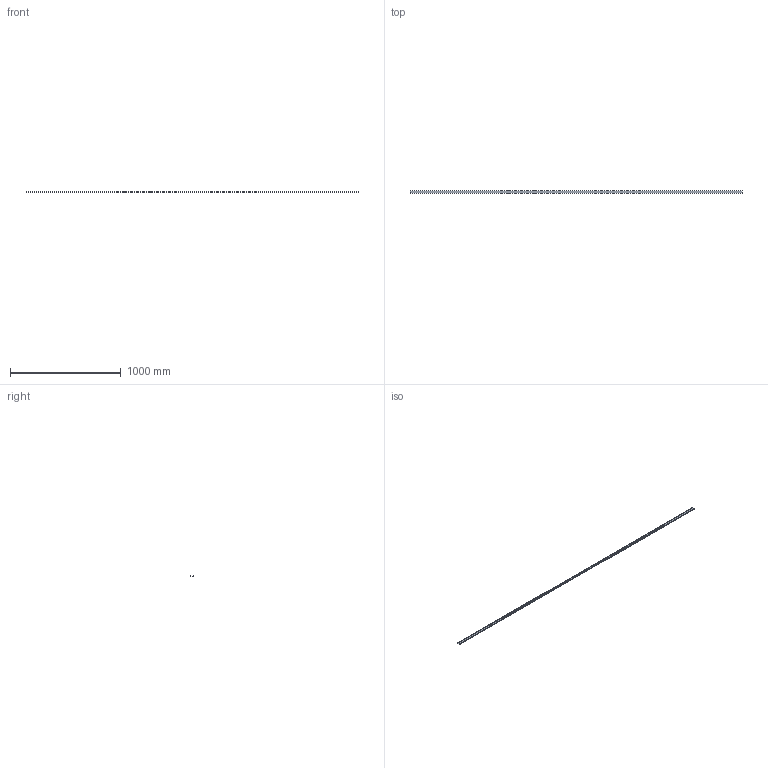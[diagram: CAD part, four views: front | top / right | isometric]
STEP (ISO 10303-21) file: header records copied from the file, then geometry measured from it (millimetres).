
FILE_DESCRIPTION (( 'STEP AP214' ), '1' );
FILE_NAME ('FABER - FGRRF 3x23.step', '2017-04-06T07:46:05', ( '' ), ( '' ), 'SwSTEP 2.0', 'SolidWorks 2016', '' );
FILE_SCHEMA (( 'AUTOMOTIVE_DESIGN' ));
Length unit declared in the file: millimetre
Products named in the file (1): FABER - FGRRF 3x23
Bounding box: 3000 x 23.2 x 7 mm (x, y, z)
Volume: 202216.1 mm3; surface area: 212521.5 mm2
Topology: 1 solids, 1 shells, 18 faces, 48 edges, 32 vertices
Faces by surface type: plane 10, cylinder 8
Entity records: 602 total; most frequent: DIRECTION 102, CARTESIAN_POINT 99, ORIENTED_EDGE 96, EDGE_CURVE 48, AXIS2_PLACEMENT_3D 35, VERTEX_POINT 32, VECTOR 32, LINE 32
